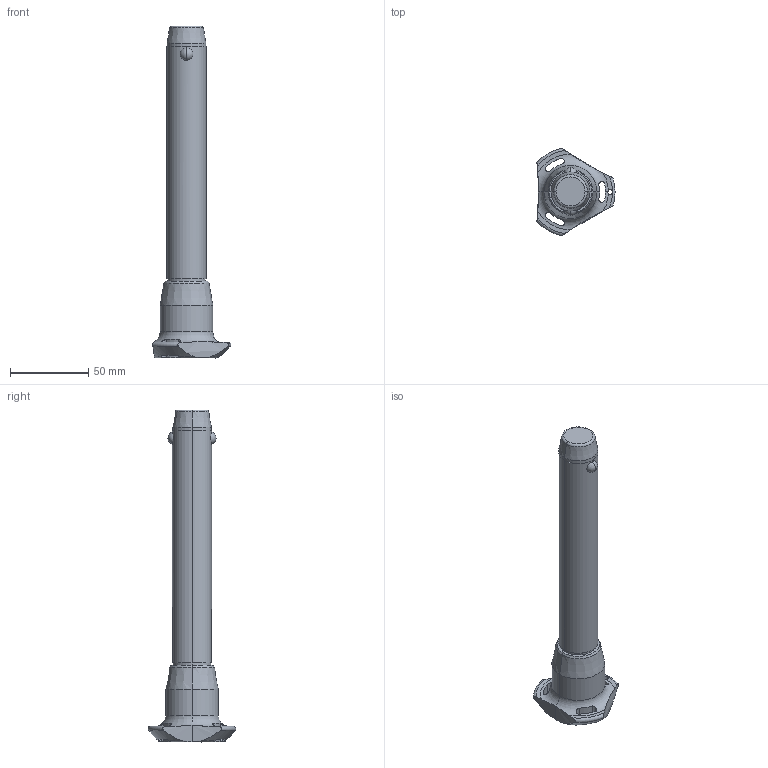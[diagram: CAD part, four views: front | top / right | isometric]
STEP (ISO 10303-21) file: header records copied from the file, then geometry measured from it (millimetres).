
FILE_DESCRIPTION (( 'STEP AP203' ), '1' );
FILE_NAME ('QR1726.M25-140-T.step', '2025-11-13T11:31:00', ( '' ), ( '' ), 'SwSTEP 2.0', 'SolidWorks 2019', '' );
FILE_SCHEMA (( 'CONFIG_CONTROL_DESIGN' ));
Length unit declared in the file: millimetre
Products named in the file (1): QR1726.M25-140-T
Bounding box: 50.05 x 56.02 x 212.7 mm (x, y, z)
Volume: 127174.1 mm3; surface area: 22445.4 mm2
Topology: 1 solids, 1 shells, 68 faces, 182 edges, 115 vertices
Faces by surface type: cylinder 32, cone 14, torus 11, sphere 6, plane 5
Entity records: 2938 total; most frequent: CARTESIAN_POINT 1192, ORIENTED_EDGE 364, DIRECTION 345, EDGE_CURVE 182, AXIS2_PLACEMENT_3D 154, VERTEX_POINT 115, CIRCLE 85, EDGE_LOOP 75
